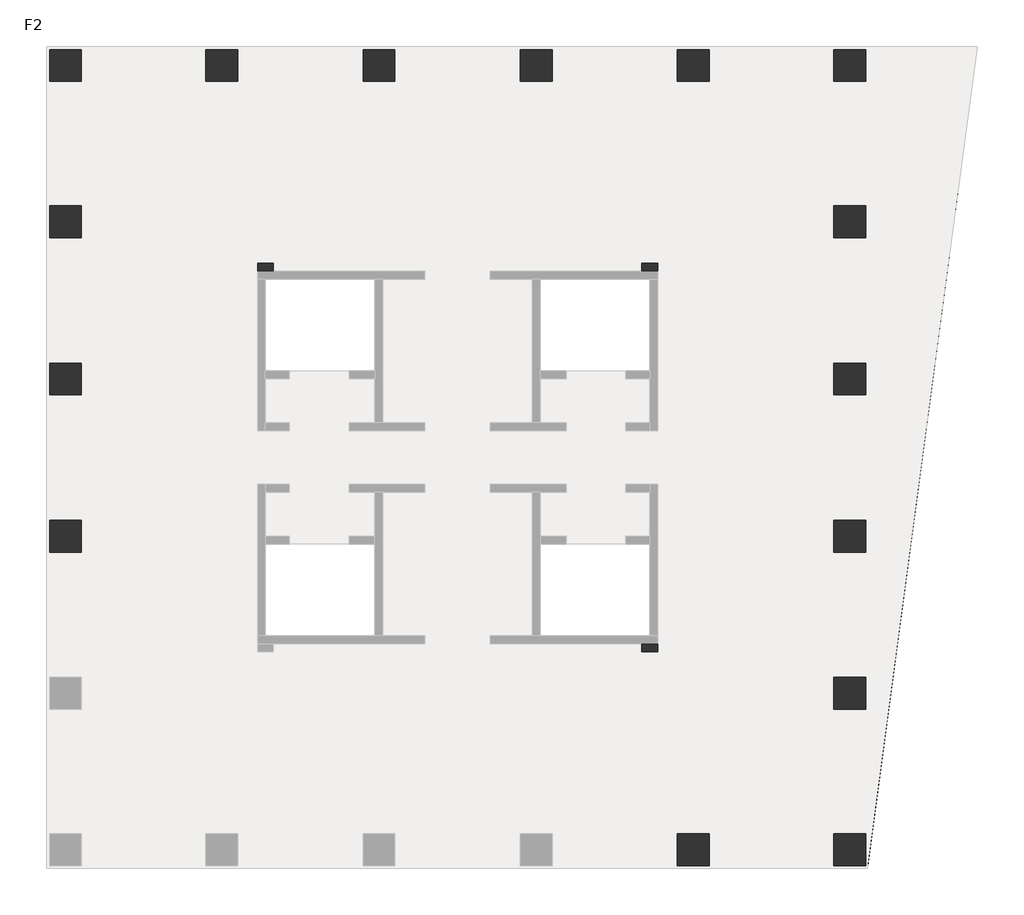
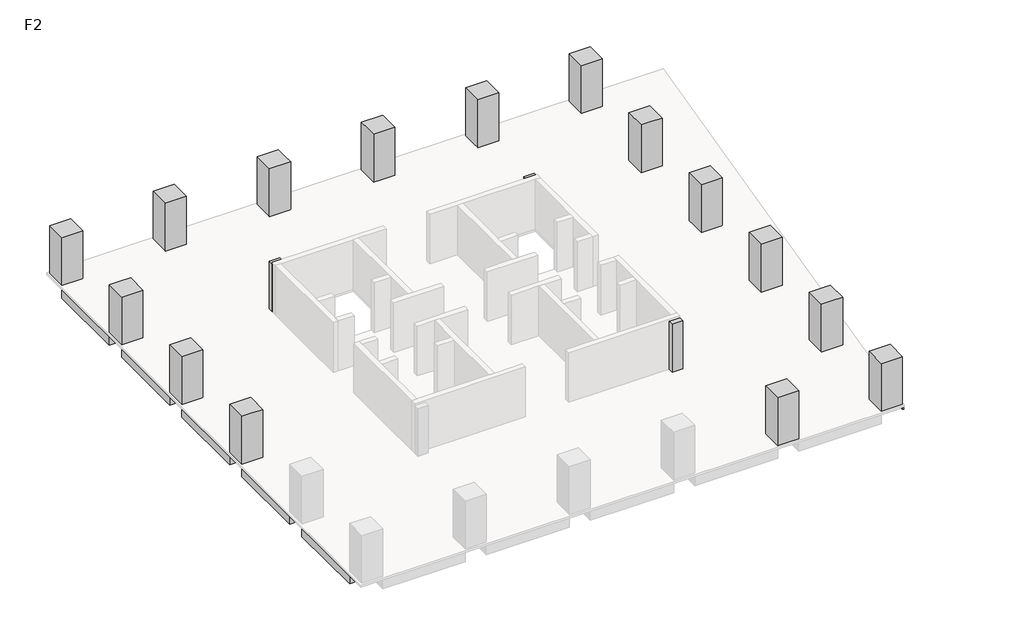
# One storey, part 2 of 2: 21 beams, 18 columns.
"""IFC4 building model written with IfcOpenShell, lengths in millimetres."""

from ifc_helpers import new_model, si_unit, frame, origin, place, context, project, spatial, polyline, outline, extrude, faceted_brep, element, save

model = new_model("IFC4")

# Units and contexts
model_context = context("Model", 3, world=origin())
ifc_project = project(units=[si_unit("LENGTHUNIT", "METRE", prefix="MILLI")], contexts=[model_context])

# Site, building, storey
site = spatial("IfcSite", under=ifc_project)
building = spatial("IfcBuilding", under=site)
storey = spatial("IfcBuildingStorey", under=building, Name="F2", Elevation=8000.0)

# Beams
placement = place(None, origin())
element("IfcBeam", 1, ObjectType="混凝土 - 矩形梁 : KL(5)-800x1000", at=placement, inside=storey, context=model_context, shape_type="SweptSolid", body=[
    extrude(outline(polyline([(25327.3257831, 27051.0498658), (25327.3257831, 26251.0498658), (19077.3257831, 26251.0498658), (19077.3257831, 27051.0498658), (25327.3257831, 27051.0498658)])), frame((0.0, 0.0, 7000.0), z_axis=(0.0, 0.0, 1.0), x_axis=(1.0, 0.0, 0.0)), (0.0, 0.0, 1.0), 840.0),
    extrude(outline(polyline([(-12472.6742169, 26251.0498658), (-12472.6742169, 27051.0498658), (-6222.6742169, 27051.0498658), (-6222.6742169, 26251.0498658), (-12472.6742169, 26251.0498658)])), frame((0.0, 0.0, 7000.0), z_axis=(0.0, 0.0, 1.0), x_axis=(1.0, 0.0, 0.0)), (0.0, 0.0, 1.0), 840.0),
    extrude(outline(polyline([(-4622.6742169, 26251.0498658), (-4622.6742169, 27051.0498658), (1677.3257831, 27051.0498658), (1677.3257831, 26251.0498658), (-4622.6742169, 26251.0498658)])), frame((0.0, 0.0, 7000.0), z_axis=(0.0, 0.0, 1.0), x_axis=(1.0, 0.0, 0.0)), (0.0, 0.0, 1.0), 840.0),
    extrude(outline(polyline([(3277.3257831, 26251.0498658), (3277.3257831, 27051.0498658), (9577.3257831, 27051.0498658), (9577.3257831, 26251.0498658), (3277.3257831, 26251.0498658)])), frame((0.0, 0.0, 7000.0), z_axis=(0.0, 0.0, 1.0), x_axis=(1.0, 0.0, 0.0)), (0.0, 0.0, 1.0), 840.0),
    extrude(outline(polyline([(11177.3257831, 26251.0498658), (11177.3257831, 27051.0498658), (17477.3257831, 27051.0498658), (17477.3257831, 26251.0498658), (11177.3257831, 26251.0498658)])), frame((0.0, 0.0, 7000.0), z_axis=(0.0, 0.0, 1.0), x_axis=(1.0, 0.0, 0.0)), (0.0, 0.0, 1.0), 840.0),
])
element("IfcBeam", 2, ObjectType="混凝土 - 矩形梁 : KL(5)-800x1000", at=placement, inside=storey, context=model_context, shape_type="Brep", body=[
    faceted_brep([(26927.3257831, 26251.0498658, 7000.0), (32422.0087099, 26251.0498658, 7000.0), (32422.0087099, 26251.0498658, 7840.0), (32018.4257091, 26251.0498658, 7840.0), (26927.3257831, 26251.0498658, 7840.0), (32422.0087099, 27051.0498658, 7000.0), (26927.3257831, 27051.0498658, 7000.0), (26927.3257831, 27051.0498658, 7840.0), (32422.0087099, 27051.0498658, 7840.0)], [[[0, 1, 2, 3, 4]], [[5, 1, 0, 6]], [[5, 6, 7, 8]], [[1, 5, 8, 2]], [[6, 0, 4, 7]], [[4, 3, 2, 8, 7]]]),
])
element("IfcBeam", 3, ObjectType="混凝土 - 矩形梁 : KL(5)-800x1000", at=placement, inside=storey, context=model_context, shape_type="Brep", body=[
    faceted_brep([(26127.3257831, -6098.9501342, 7000.0), (26127.3257831, -12348.9501342, 7000.0), (26127.3257831, -12348.9501342, 7840.0), (26127.3257831, -6098.9501342, 7840.0), (26927.3257831, -12348.9501342, 7000.0), (26927.3257831, -6098.9501342, 7000.0), (26927.3257831, -6098.9501342, 7840.0), (26927.3257831, -11700.7859463, 7840.0), (26927.3257831, -12348.9501342, 7840.0)], [[[0, 1, 2, 3]], [[4, 1, 0, 5]], [[4, 5, 6, 7, 8]], [[1, 4, 8, 2]], [[5, 0, 3, 6]], [[3, 2, 8, 7, 6]]]),
    faceted_brep([(26927.3257831, 25451.0498658, 7000.0), (26127.3257831, 25451.0498658, 7000.0), (26127.3257831, 25451.0498658, 7840.0), (26927.3257831, 25451.0498658, 7840.0), (26127.3257831, 19201.0498658, 7000.0), (26927.3257831, 19201.0498658, 7000.0), (26927.3257831, 19201.0498658, 7840.0), (26127.3257831, 19201.0498658, 7840.0)], [[[0, 1, 2, 3]], [[4, 5, 6, 7]], [[1, 4, 7, 2]], [[1, 0, 5, 4]], [[5, 0, 3, 6]], [[3, 2, 7, 6]]]),
    faceted_brep([(26927.3257831, 17601.0498658, 7000.0), (26127.3257831, 17601.0498658, 7000.0), (26127.3257831, 17601.0498658, 7840.0), (26927.3257831, 17601.0498658, 7840.0), (26127.3257831, 11301.0498658, 7000.0), (26927.3257831, 11301.0498658, 7000.0), (26927.3257831, 11301.0498658, 7840.0), (26127.3257831, 11301.0498658, 7840.0)], [[[0, 1, 2, 3]], [[4, 5, 6, 7]], [[1, 4, 7, 2]], [[1, 0, 5, 4]], [[5, 0, 3, 6]], [[3, 2, 7, 6]]]),
    faceted_brep([(26927.3257831, 9701.0498658, 7000.0), (26127.3257831, 9701.0498658, 7000.0), (26127.3257831, 9701.0498658, 7840.0), (26927.3257831, 9701.0498658, 7840.0), (26127.3257831, 3401.0498658, 7000.0), (26927.3257831, 3401.0498658, 7000.0), (26927.3257831, 3401.0498658, 7840.0), (26127.3257831, 3401.0498658, 7840.0)], [[[0, 1, 2, 3]], [[4, 5, 6, 7]], [[1, 4, 7, 2]], [[1, 0, 5, 4]], [[5, 0, 3, 6]], [[3, 2, 7, 6]]]),
    faceted_brep([(26927.3257831, 1801.0498658, 7000.0), (26127.3257831, 1801.0498658, 7000.0), (26127.3257831, 1801.0498658, 7840.0), (26927.3257831, 1801.0498658, 7840.0), (26127.3257831, -4498.9501342, 7000.0), (26927.3257831, -4498.9501342, 7000.0), (26927.3257831, -4498.9501342, 7840.0), (26127.3257831, -4498.9501342, 7840.0)], [[[0, 1, 2, 3]], [[4, 5, 6, 7]], [[1, 4, 7, 2]], [[1, 0, 5, 4]], [[5, 0, 3, 6]], [[3, 2, 7, 6]]]),
])
element("IfcBeam", 4, ObjectType="混凝土 - 矩形梁 : KL(5)-800x1000", at=placement, inside=storey, context=model_context, shape_type="SweptSolid", body=[
    extrude(outline(polyline([(-14072.6742169, 25451.0498658), (-13272.6742169, 25451.0498658), (-13272.6742169, 19201.0498658), (-14072.6742169, 19201.0498658), (-14072.6742169, 25451.0498658)])), frame((0.0, 0.0, 7000.0), z_axis=(0.0, 0.0, 1.0), x_axis=(1.0, 0.0, 0.0)), (0.0, 0.0, 1.0), 840.0),
    extrude(outline(polyline([(-13272.6742169, -12348.9501342), (-14072.6742169, -12348.9501342), (-14072.6742169, -6098.9501342), (-13272.6742169, -6098.9501342), (-13272.6742169, -12348.9501342)])), frame((0.0, 0.0, 7000.0), z_axis=(0.0, 0.0, 1.0), x_axis=(1.0, 0.0, 0.0)), (0.0, 0.0, 1.0), 840.0),
    extrude(outline(polyline([(-14072.6742169, 17601.0498658), (-13272.6742169, 17601.0498658), (-13272.6742169, 11301.0498658), (-14072.6742169, 11301.0498658), (-14072.6742169, 17601.0498658)])), frame((0.0, 0.0, 7000.0), z_axis=(0.0, 0.0, 1.0), x_axis=(1.0, 0.0, 0.0)), (0.0, 0.0, 1.0), 840.0),
    extrude(outline(polyline([(-14072.6742169, 9701.0498658), (-13272.6742169, 9701.0498658), (-13272.6742169, 3401.0498658), (-14072.6742169, 3401.0498658), (-14072.6742169, 9701.0498658)])), frame((0.0, 0.0, 7000.0), z_axis=(0.0, 0.0, 1.0), x_axis=(1.0, 0.0, 0.0)), (0.0, 0.0, 1.0), 840.0),
    extrude(outline(polyline([(-14072.6742169, 1801.0498658), (-13272.6742169, 1801.0498658), (-13272.6742169, -4498.9501342), (-14072.6742169, -4498.9501342), (-14072.6742169, 1801.0498658)])), frame((0.0, 0.0, 7000.0), z_axis=(0.0, 0.0, 1.0), x_axis=(1.0, 0.0, 0.0)), (0.0, 0.0, 1.0), 840.0),
])
element("IfcBeam", 5, ObjectType="混凝土 - 矩形梁 : L1-800x500", at=placement, inside=storey, context=model_context, shape_type="SweptSolid", body=[
    extrude(outline(polyline([(-12472.6742169, 2201.0498658), (-12472.6742169, 3001.0498658), (-3622.6742169, 3001.0498658), (-3622.6742169, 2201.0498658), (-12472.6742169, 2201.0498658)])), frame((0.0, 0.0, 7500.0), z_axis=(0.0, 0.0, 1.0), x_axis=(1.0, 0.0, 0.0)), (0.0, 0.0, 1.0), 340.0),
])
element("IfcBeam", 6, ObjectType="混凝土 - 矩形梁 : L1-800x500", at=placement, inside=storey, context=model_context, shape_type="SweptSolid", body=[
    extrude(outline(polyline([(-12472.6742169, 10101.0498658), (-12472.6742169, 10901.0498658), (-3622.6742169, 10901.0498658), (-3622.6742169, 10101.0498658), (-12472.6742169, 10101.0498658)])), frame((0.0, 0.0, 7500.0), z_axis=(0.0, 0.0, 1.0), x_axis=(1.0, 0.0, 0.0)), (0.0, 0.0, 1.0), 340.0),
])
element("IfcBeam", 7, ObjectType="混凝土 - 矩形梁 : L1-800x500", at=placement, inside=storey, context=model_context, shape_type="Brep", body=[
    faceted_brep([(-12472.6742169, 17789.85471, 7500.0), (-3622.6742169, 15588.3621727, 7500.0), (-3622.6742169, 15588.3621727, 7840.0), (-12472.6742169, 17789.85471, 7840.0), (-3173.6696907, 16301.0498658, 7500.0), (-3622.6742169, 16301.0498658, 7500.0), (-3622.6742169, 15901.0498658, 7500.0), (-12472.6742169, 18614.2350714, 7500.0), (-3746.9473979, 16443.6562607, 7500.0), (-12472.6742169, 18614.2350714, 7840.0), (-3746.9473979, 16443.6562607, 7840.0), (-3173.6696907, 16301.0498658, 7840.0), (-3622.6742169, 16301.0498658, 7840.0)], [[[0, 1, 2, 3]], [[4, 5, 6, 1, 0, 7, 8]], [[4, 8, 7, 9, 10, 11]], [[6, 5, 12, 2, 1]], [[5, 4, 11, 12]], [[7, 0, 3, 9]], [[3, 2, 12, 11, 10, 9]]]),
])
element("IfcBeam", 8, ObjectType="混凝土 - 矩形梁 : L1-800x500", at=placement, inside=storey, context=model_context, shape_type="SweptSolid", body=[
    extrude(outline(polyline([(-3173.6696907, 16301.0498658), (-3746.9473979, 16443.6562607), (-5661.5624638, 25451.0498658), (-4843.6893517, 25451.0498658), (-2898.7618154, 16301.0498658), (-3173.6696907, 16301.0498658)])), frame((0.0, 0.0, 7500.0), z_axis=(0.0, 0.0, 1.0), x_axis=(1.0, 0.0, 0.0)), (0.0, 0.0, 1.0), 340.0),
])
element("IfcBeam", 9, ObjectType="混凝土 - 矩形梁 : L1-800x500", at=placement, inside=storey, context=model_context, shape_type="SweptSolid", body=[
    extrude(outline(polyline([(2077.3257831, 25451.0498658), (2877.3257831, 25451.0498658), (2877.3257831, 15901.0498658), (2077.3257831, 15901.0498658), (2077.3257831, 25451.0498658)])), frame((0.0, 0.0, 7500.0), z_axis=(0.0, 0.0, 1.0), x_axis=(1.0, 0.0, 0.0)), (0.0, 0.0, 1.0), 340.0),
])
element("IfcBeam", 10, ObjectType="混凝土 - 矩形梁 : L1-800x500", at=placement, inside=storey, context=model_context, shape_type="SweptSolid", body=[
    extrude(outline(polyline([(9977.3257831, 25451.0498658), (10777.3257831, 25451.0498658), (10777.3257831, 15901.0498658), (9977.3257831, 15901.0498658), (9977.3257831, 25451.0498658)])), frame((0.0, 0.0, 7500.0), z_axis=(0.0, 0.0, 1.0), x_axis=(1.0, 0.0, 0.0)), (0.0, 0.0, 1.0), 340.0),
])
element("IfcBeam", 11, ObjectType="混凝土 - 矩形梁 : L1-800x500", at=placement, inside=storey, context=model_context, shape_type="Brep", body=[
    faceted_brep([(25327.3257831, -4687.7549784, 7500.0), (16477.3257831, -2486.2624411, 7500.0), (16477.3257831, -2486.2624411, 7840.0), (25327.3257831, -4687.7549784, 7840.0), (16028.3212569, -3198.9501342, 7500.0), (16477.3257831, -3198.9501342, 7500.0), (16477.3257831, -2798.9501342, 7500.0), (25327.3257831, -5512.1353397, 7500.0), (16601.5989641, -3341.556529, 7500.0), (25327.3257831, -5512.1353397, 7840.0), (16601.5989641, -3341.556529, 7840.0), (16028.3212569, -3198.9501342, 7840.0), (16477.3257831, -3198.9501342, 7840.0)], [[[0, 1, 2, 3]], [[4, 5, 6, 1, 0, 7, 8]], [[4, 8, 7, 9, 10, 11]], [[6, 5, 12, 2, 1]], [[5, 4, 11, 12]], [[7, 0, 3, 9]], [[3, 2, 12, 11, 10, 9]]]),
])
element("IfcBeam", 12, ObjectType="混凝土 - 矩形梁 : L1-800x500", at=placement, inside=storey, context=model_context, shape_type="SweptSolid", body=[
    extrude(outline(polyline([(16028.3212569, -3198.9501342), (16601.5989641, -3341.556529), (18516.21403, -12348.9501342), (17698.3409179, -12348.9501342), (15753.4133817, -3198.9501342), (16028.3212569, -3198.9501342)])), frame((0.0, 0.0, 7500.0), z_axis=(0.0, 0.0, 1.0), x_axis=(1.0, 0.0, 0.0)), (0.0, 0.0, 1.0), 340.0),
])
element("IfcBeam", 13, ObjectType="混凝土 - 矩形梁 : L1-800x500", at=placement, inside=storey, context=model_context, shape_type="SweptSolid", body=[
    extrude(outline(polyline([(25327.3257831, 3001.0498658), (25327.3257831, 2201.0498658), (16477.3257831, 2201.0498658), (16477.3257831, 3001.0498658), (25327.3257831, 3001.0498658)])), frame((0.0, 0.0, 7500.0), z_axis=(0.0, 0.0, 1.0), x_axis=(1.0, 0.0, 0.0)), (0.0, 0.0, 1.0), 340.0),
])
element("IfcBeam", 14, ObjectType="混凝土 - 矩形梁 : L1-800x500", at=placement, inside=storey, context=model_context, shape_type="SweptSolid", body=[
    extrude(outline(polyline([(25327.3257831, 10901.0498658), (25327.3257831, 10101.0498658), (16477.3257831, 10101.0498658), (16477.3257831, 10901.0498658), (25327.3257831, 10901.0498658)])), frame((0.0, 0.0, 7500.0), z_axis=(0.0, 0.0, 1.0), x_axis=(1.0, 0.0, 0.0)), (0.0, 0.0, 1.0), 340.0),
])
element("IfcBeam", 15, ObjectType="混凝土 - 矩形梁 : L1-800x500", at=placement, inside=storey, context=model_context, shape_type="Brep", body=[
    faceted_brep([(25327.3257831, 18610.6867312, 7500.0), (16590.8993897, 16393.3196262, 7500.0), (16227.3565337, 16301.0498658, 7500.0), (16227.3565337, 16301.0498658, 7840.0), (16590.8993897, 16393.3196262, 7840.0), (25327.3257831, 18610.6867312, 7840.0), (16477.3257831, 16301.0498658, 7500.0), (25327.3257831, 17785.3216299, 7500.0), (16477.3257831, 15539.1287365, 7500.0), (16477.3257831, 15901.0498658, 7500.0), (25327.3257831, 17785.3216299, 7840.0), (16477.3257831, 15539.1287365, 7840.0), (16477.3257831, 16301.0498658, 7840.0)], [[[0, 1, 2, 3, 4, 5]], [[6, 2, 1, 0, 7, 8, 9]], [[8, 7, 10, 11]], [[9, 8, 11, 12, 6]], [[2, 6, 12, 3]], [[7, 0, 5, 10]], [[5, 4, 3, 12, 11, 10]]]),
])
element("IfcBeam", 16, ObjectType="混凝土 - 矩形梁 : L1-800x500", at=placement, inside=storey, context=model_context, shape_type="SweptSolid", body=[
    extrude(outline(polyline([(16590.8993897, 16393.3196262), (16227.3565337, 16301.0498658), (15753.4133817, 16301.0498658), (17698.3409179, 25451.0498658), (18516.21403, 25451.0498658), (16590.8993897, 16393.3196262)])), frame((0.0, 0.0, 7500.0), z_axis=(0.0, 0.0, 1.0), x_axis=(1.0, 0.0, 0.0)), (0.0, 0.0, 1.0), 340.0),
])
element("IfcBeam", 17, ObjectType="混凝土 - 矩形梁 : L2-400x400", at=placement, inside=storey, context=model_context, shape_type="Brep", body=[
    faceted_brep([(32422.0087099, 26251.0498658, 7600.0), (27029.3257831, -13948.9501342, 7600.0), (26927.3257831, -13935.2672073, 7600.0), (26927.3257831, -11700.7859463, 7600.0), (27759.2793677, -5498.9501342, 7600.0), (27812.9379042, -5098.9501342, 7600.0), (28819.0354652, 2401.0498658, 7600.0), (28872.6940018, 2801.0498658, 7600.0), (29878.7915628, 10301.0498658, 7600.0), (29932.4500994, 10701.0498658, 7600.0), (30938.5476603, 18201.0498658, 7600.0), (30992.2061969, 18601.0498658, 7600.0), (32018.4257091, 26251.0498658, 7600.0), (32422.0087099, 26251.0498658, 7840.0), (27029.3257831, -13948.9501342, 7840.0), (32018.4257091, 26251.0498658, 7840.0), (26927.3257831, -13935.2672073, 7840.0), (26927.3257831, -12348.9501342, 7840.0), (26927.3257831, -11700.7859463, 7840.0), (27759.2793677, -5498.9501342, 7840.0), (27812.9379042, -5098.9501342, 7840.0), (28819.0354652, 2401.0498658, 7840.0), (28872.6940018, 2801.0498658, 7840.0), (29878.7915628, 10301.0498658, 7840.0), (29932.4500994, 10701.0498658, 7840.0), (30938.5476603, 18201.0498658, 7840.0), (30992.2061969, 18601.0498658, 7840.0)], [[[0, 1, 2, 3, 4, 5, 6, 7, 8, 9, 10, 11, 12]], [[1, 0, 13, 14]], [[0, 12, 15, 13]], [[3, 2, 16, 17, 18]], [[12, 11, 10, 9, 8, 7, 6, 5, 4, 3, 18, 19, 20, 21, 22, 23, 24, 25, 26, 15]], [[2, 1, 14, 16]], [[14, 13, 15, 26, 25, 24, 23, 22, 21, 20, 19, 18, 17, 16]]]),
])
element("IfcBeam", 18, ObjectType="混凝土 - 矩形梁 : L2-400x400", at=placement, inside=storey, context=model_context, shape_type="SweptSolid", body=[
    extrude(outline(polyline([(30938.5476603, 18201.0498658), (26927.3257831, 18201.0498658), (26927.3257831, 18601.0498658), (30992.2061969, 18601.0498658), (30938.5476603, 18201.0498658)])), frame((0.0, 0.0, 7600.0), z_axis=(0.0, 0.0, 1.0), x_axis=(1.0, 0.0, 0.0)), (0.0, 0.0, 1.0), 240.0),
])
element("IfcBeam", 19, ObjectType="混凝土 - 矩形梁 : L2-400x400", at=placement, inside=storey, context=model_context, shape_type="SweptSolid", body=[
    extrude(outline(polyline([(29878.7915628, 10301.0498658), (26927.3257831, 10301.0498658), (26927.3257831, 10701.0498658), (29932.4500994, 10701.0498658), (29878.7915628, 10301.0498658)])), frame((0.0, 0.0, 7600.0), z_axis=(0.0, 0.0, 1.0), x_axis=(1.0, 0.0, 0.0)), (0.0, 0.0, 1.0), 240.0),
])
element("IfcBeam", 20, ObjectType="混凝土 - 矩形梁 : L2-400x400", at=placement, inside=storey, context=model_context, shape_type="SweptSolid", body=[
    extrude(outline(polyline([(28819.0354652, 2401.0498658), (26927.3257831, 2401.0498658), (26927.3257831, 2801.0498658), (28872.6940018, 2801.0498658), (28819.0354652, 2401.0498658)])), frame((0.0, 0.0, 7600.0), z_axis=(0.0, 0.0, 1.0), x_axis=(1.0, 0.0, 0.0)), (0.0, 0.0, 1.0), 240.0),
])
element("IfcBeam", 21, ObjectType="混凝土 - 矩形梁 : L2-400x400", at=placement, inside=storey, context=model_context, shape_type="SweptSolid", body=[
    extrude(outline(polyline([(27759.2793677, -5498.9501342), (26927.3257831, -5498.9501342), (26927.3257831, -5098.9501342), (27812.9379042, -5098.9501342), (27759.2793677, -5498.9501342)])), frame((0.0, 0.0, 7600.0), z_axis=(0.0, 0.0, 1.0), x_axis=(1.0, 0.0, 0.0)), (0.0, 0.0, 1.0), 240.0),
])

# Columns
element("IfcColumn", 22, ObjectType="混凝土 - 矩形 - 柱 : Z1-1600x1600", at=placement, inside=storey, context=model_context, shape_type="SweptSolid", body=[
    extrude(outline(polyline([(-12472.6742169, 27051.0498658), (-12472.6742169, 25451.0498658), (-14072.6742169, 25451.0498658), (-14072.6742169, 27051.0498658), (-12472.6742169, 27051.0498658)])), frame((0.0, 0.0, 8000.0), z_axis=(0.0, 0.0, 1.0), x_axis=(1.0, 0.0, 0.0)), (0.0, 0.0, 1.0), 3840.0),
])
element("IfcColumn", 23, ObjectType="混凝土 - 矩形 - 柱 : Z1-1600x1600", at=placement, inside=storey, context=model_context, shape_type="Brep", body=[
    faceted_brep([(-4622.6742169, 27051.0498658, 8000.0), (-4622.6742169, 25451.0498658, 8000.0), (-6222.6742169, 25451.0498658, 8000.0), (-6222.6742169, 27051.0498658, 8000.0), (-4622.6742169, 27051.0498658, 11000.0), (-4622.6742169, 27051.0498658, 11840.0), (-4622.6742169, 26251.0498658, 11840.0), (-4622.6742169, 25451.0498658, 11840.0), (-6222.6742169, 25451.0498658, 11840.0), (-6222.6742169, 26251.0498658, 11840.0), (-6222.6742169, 27051.0498658, 11840.0), (-6222.6742169, 27051.0498658, 11000.0)], [[[0, 1, 2, 3]], [[1, 0, 4, 5, 6, 7]], [[2, 1, 7, 8]], [[3, 2, 8, 9, 10, 11]], [[0, 3, 11, 10, 5, 4]], [[7, 6, 5, 10, 9, 8]]]),
])
element("IfcColumn", 24, ObjectType="混凝土 - 矩形 - 柱 : Z1-1600x1600", at=placement, inside=storey, context=model_context, shape_type="Brep", body=[
    faceted_brep([(-12472.6742169, 19201.0498658, 8000.0), (-12472.6742169, 17601.0498658, 8000.0), (-14072.6742169, 17601.0498658, 8000.0), (-14072.6742169, 19201.0498658, 8000.0), (-12472.6742169, 19201.0498658, 11840.0), (-12472.6742169, 17601.0498658, 11840.0), (-13272.6742169, 17601.0498658, 11840.0), (-14072.6742169, 17601.0498658, 11840.0), (-14072.6742169, 17601.0498658, 11000.0), (-14072.6742169, 19201.0498658, 11840.0), (-14072.6742169, 19201.0498658, 11000.0), (-13272.6742169, 19201.0498658, 11840.0)], [[[0, 1, 2, 3]], [[1, 0, 4, 5]], [[2, 1, 5, 6, 7, 8]], [[3, 2, 8, 7, 9, 10]], [[0, 3, 10, 9, 11, 4]], [[5, 4, 11, 9, 7, 6]]]),
])
element("IfcColumn", 25, ObjectType="混凝土 - 矩形 - 柱 : Z1-1600x1600", at=placement, inside=storey, context=model_context, shape_type="Brep", body=[
    faceted_brep([(-12472.6742169, 11301.0498658, 8000.0), (-12472.6742169, 9701.0498658, 8000.0), (-14072.6742169, 9701.0498658, 8000.0), (-14072.6742169, 11301.0498658, 8000.0), (-12472.6742169, 11301.0498658, 11840.0), (-12472.6742169, 9701.0498658, 11840.0), (-13272.6742169, 9701.0498658, 11840.0), (-14072.6742169, 9701.0498658, 11840.0), (-14072.6742169, 9701.0498658, 11000.0), (-14072.6742169, 11301.0498658, 11840.0), (-14072.6742169, 11301.0498658, 11000.0), (-13272.6742169, 11301.0498658, 11840.0)], [[[0, 1, 2, 3]], [[1, 0, 4, 5]], [[2, 1, 5, 6, 7, 8]], [[3, 2, 8, 7, 9, 10]], [[0, 3, 10, 9, 11, 4]], [[5, 4, 11, 9, 7, 6]]]),
])
element("IfcColumn", 26, ObjectType="混凝土 - 矩形 - 柱 : Z1-1600x1600", at=placement, inside=storey, context=model_context, shape_type="Brep", body=[
    faceted_brep([(-12472.6742169, 3401.0498658, 8000.0), (-12472.6742169, 1801.0498658, 8000.0), (-14072.6742169, 1801.0498658, 8000.0), (-14072.6742169, 3401.0498658, 8000.0), (-12472.6742169, 3401.0498658, 11840.0), (-12472.6742169, 1801.0498658, 11840.0), (-13272.6742169, 1801.0498658, 11840.0), (-14072.6742169, 1801.0498658, 11840.0), (-14072.6742169, 1801.0498658, 11000.0), (-14072.6742169, 3401.0498658, 11840.0), (-14072.6742169, 3401.0498658, 11000.0), (-13272.6742169, 3401.0498658, 11840.0)], [[[0, 1, 2, 3]], [[1, 0, 4, 5]], [[2, 1, 5, 6, 7, 8]], [[3, 2, 8, 7, 9, 10]], [[0, 3, 10, 9, 11, 4]], [[5, 4, 11, 9, 7, 6]]]),
])
element("IfcColumn", 27, ObjectType="混凝土 - 矩形 - 柱 : Z1-1600x1600", at=placement, inside=storey, context=model_context, shape_type="SweptSolid", body=[
    extrude(outline(polyline([(25327.3257831, 27051.0498658), (26927.3257831, 27051.0498658), (26927.3257831, 25451.0498658), (25327.3257831, 25451.0498658), (25327.3257831, 27051.0498658)])), frame((0.0, 0.0, 8000.0), z_axis=(0.0, 0.0, 1.0), x_axis=(1.0, 0.0, 0.0)), (0.0, 0.0, 1.0), 3840.0),
])
element("IfcColumn", 28, ObjectType="混凝土 - 矩形 - 柱 : Z1-1600x1600", at=placement, inside=storey, context=model_context, shape_type="Brep", body=[
    faceted_brep([(25327.3257831, 19201.0498658, 8000.0), (26927.3257831, 19201.0498658, 8000.0), (26927.3257831, 17601.0498658, 8000.0), (25327.3257831, 17601.0498658, 8000.0), (25327.3257831, 17601.0498658, 11840.0), (25327.3257831, 19201.0498658, 11840.0), (26927.3257831, 17601.0498658, 11000.0), (26927.3257831, 17601.0498658, 11840.0), (26127.3257831, 17601.0498658, 11840.0), (26927.3257831, 19201.0498658, 11000.0), (26927.3257831, 19201.0498658, 11840.0), (26127.3257831, 19201.0498658, 11840.0)], [[[0, 1, 2, 3]], [[0, 3, 4, 5]], [[3, 2, 6, 7, 8, 4]], [[2, 1, 9, 10, 7, 6]], [[1, 0, 5, 11, 10, 9]], [[5, 4, 8, 7, 10, 11]]]),
])
element("IfcColumn", 29, ObjectType="混凝土 - 矩形 - 柱 : Z1-1600x1600", at=placement, inside=storey, context=model_context, shape_type="Brep", body=[
    faceted_brep([(25327.3257831, 11301.0498658, 8000.0), (26927.3257831, 11301.0498658, 8000.0), (26927.3257831, 9701.0498658, 8000.0), (25327.3257831, 9701.0498658, 8000.0), (25327.3257831, 9701.0498658, 11840.0), (25327.3257831, 11301.0498658, 11840.0), (26927.3257831, 9701.0498658, 11000.0), (26927.3257831, 9701.0498658, 11840.0), (26127.3257831, 9701.0498658, 11840.0), (26927.3257831, 11301.0498658, 11000.0), (26927.3257831, 11301.0498658, 11840.0), (26127.3257831, 11301.0498658, 11840.0)], [[[0, 1, 2, 3]], [[0, 3, 4, 5]], [[3, 2, 6, 7, 8, 4]], [[2, 1, 9, 10, 7, 6]], [[1, 0, 5, 11, 10, 9]], [[5, 4, 8, 7, 10, 11]]]),
])
element("IfcColumn", 30, ObjectType="混凝土 - 矩形 - 柱 : Z1-1600x1600", at=placement, inside=storey, context=model_context, shape_type="Brep", body=[
    faceted_brep([(25327.3257831, 3401.0498658, 8000.0), (26927.3257831, 3401.0498658, 8000.0), (26927.3257831, 1801.0498658, 8000.0), (25327.3257831, 1801.0498658, 8000.0), (25327.3257831, 1801.0498658, 11840.0), (25327.3257831, 3401.0498658, 11840.0), (26927.3257831, 1801.0498658, 11000.0), (26927.3257831, 1801.0498658, 11840.0), (26127.3257831, 1801.0498658, 11840.0), (26927.3257831, 3401.0498658, 11000.0), (26927.3257831, 3401.0498658, 11840.0), (26127.3257831, 3401.0498658, 11840.0)], [[[0, 1, 2, 3]], [[0, 3, 4, 5]], [[3, 2, 6, 7, 8, 4]], [[2, 1, 9, 10, 7, 6]], [[1, 0, 5, 11, 10, 9]], [[5, 4, 8, 7, 10, 11]]]),
])
element("IfcColumn", 31, ObjectType="混凝土 - 矩形 - 柱 : Z1-1600x1600", at=placement, inside=storey, context=model_context, shape_type="Brep", body=[
    faceted_brep([(25327.3257831, -4498.9501342, 8000.0), (26927.3257831, -4498.9501342, 8000.0), (26927.3257831, -6098.9501342, 8000.0), (25327.3257831, -6098.9501342, 8000.0), (25327.3257831, -6098.9501342, 11840.0), (25327.3257831, -4498.9501342, 11840.0), (26927.3257831, -6098.9501342, 11000.0), (26927.3257831, -6098.9501342, 11840.0), (26127.3257831, -6098.9501342, 11840.0), (26927.3257831, -4498.9501342, 11000.0), (26927.3257831, -4498.9501342, 11840.0), (26127.3257831, -4498.9501342, 11840.0)], [[[0, 1, 2, 3]], [[0, 3, 4, 5]], [[3, 2, 6, 7, 8, 4]], [[2, 1, 9, 10, 7, 6]], [[1, 0, 5, 11, 10, 9]], [[5, 4, 8, 7, 10, 11]]]),
])
element("IfcColumn", 32, ObjectType="混凝土 - 矩形 - 柱 : Z1-1600x1600", at=placement, inside=storey, context=model_context, shape_type="SweptSolid", body=[
    extrude(outline(polyline([(25327.3257831, -12348.9501342), (26927.3257831, -12348.9501342), (26927.3257831, -13948.9501342), (25327.3257831, -13948.9501342), (25327.3257831, -12348.9501342)])), frame((0.0, 0.0, 8000.0), z_axis=(0.0, 0.0, 1.0), x_axis=(1.0, 0.0, 0.0)), (0.0, 0.0, 1.0), 3840.0),
])
element("IfcColumn", 33, ObjectType="混凝土 - 矩形 - 柱 : Z1-1600x1600", at=placement, inside=storey, context=model_context, shape_type="Brep", body=[
    faceted_brep([(3277.3257831, 27051.0498658, 8000.0), (3277.3257831, 25451.0498658, 8000.0), (1677.3257831, 25451.0498658, 8000.0), (1677.3257831, 27051.0498658, 8000.0), (3277.3257831, 27051.0498658, 11000.0), (3277.3257831, 27051.0498658, 11840.0), (3277.3257831, 26251.0498658, 11840.0), (3277.3257831, 25451.0498658, 11840.0), (1677.3257831, 25451.0498658, 11840.0), (1677.3257831, 26251.0498658, 11840.0), (1677.3257831, 27051.0498658, 11840.0), (1677.3257831, 27051.0498658, 11000.0)], [[[0, 1, 2, 3]], [[1, 0, 4, 5, 6, 7]], [[2, 1, 7, 8]], [[3, 2, 8, 9, 10, 11]], [[0, 3, 11, 10, 5, 4]], [[7, 6, 5, 10, 9, 8]]]),
])
element("IfcColumn", 34, ObjectType="混凝土 - 矩形 - 柱 : Z1-1600x1600", at=placement, inside=storey, context=model_context, shape_type="Brep", body=[
    faceted_brep([(11177.3257831, 27051.0498658, 8000.0), (11177.3257831, 25451.0498658, 8000.0), (9577.3257831, 25451.0498658, 8000.0), (9577.3257831, 27051.0498658, 8000.0), (11177.3257831, 27051.0498658, 11000.0), (11177.3257831, 27051.0498658, 11840.0), (11177.3257831, 26251.0498658, 11840.0), (11177.3257831, 25451.0498658, 11840.0), (9577.3257831, 25451.0498658, 11840.0), (9577.3257831, 26251.0498658, 11840.0), (9577.3257831, 27051.0498658, 11840.0), (9577.3257831, 27051.0498658, 11000.0)], [[[0, 1, 2, 3]], [[1, 0, 4, 5, 6, 7]], [[2, 1, 7, 8]], [[3, 2, 8, 9, 10, 11]], [[0, 3, 11, 10, 5, 4]], [[7, 6, 5, 10, 9, 8]]]),
])
element("IfcColumn", 35, ObjectType="混凝土 - 矩形 - 柱 : Z1-1600x1600", at=placement, inside=storey, context=model_context, shape_type="Brep", body=[
    faceted_brep([(19077.3257831, 27051.0498658, 8000.0), (19077.3257831, 25451.0498658, 8000.0), (17477.3257831, 25451.0498658, 8000.0), (17477.3257831, 27051.0498658, 8000.0), (19077.3257831, 27051.0498658, 11000.0), (19077.3257831, 27051.0498658, 11840.0), (19077.3257831, 26251.0498658, 11840.0), (19077.3257831, 25451.0498658, 11840.0), (17477.3257831, 25451.0498658, 11840.0), (17477.3257831, 26251.0498658, 11840.0), (17477.3257831, 27051.0498658, 11840.0), (17477.3257831, 27051.0498658, 11000.0)], [[[0, 1, 2, 3]], [[1, 0, 4, 5, 6, 7]], [[2, 1, 7, 8]], [[3, 2, 8, 9, 10, 11]], [[0, 3, 11, 10, 5, 4]], [[7, 6, 5, 10, 9, 8]]]),
])
element("IfcColumn", 36, ObjectType="混凝土 - 矩形 - 柱 : Z1-1600x1600", at=placement, inside=storey, context=model_context, shape_type="Brep", body=[
    faceted_brep([(19077.3257831, -12348.9501342, 8000.0), (19077.3257831, -13948.9501342, 8000.0), (17477.3257831, -13948.9501342, 8000.0), (17477.3257831, -12348.9501342, 8000.0), (19077.3257831, -12348.9501342, 11840.0), (19077.3257831, -13148.9501342, 11840.0), (19077.3257831, -13948.9501342, 11840.0), (19077.3257831, -13948.9501342, 11000.0), (17477.3257831, -13948.9501342, 11840.0), (17477.3257831, -13948.9501342, 11000.0), (17477.3257831, -13148.9501342, 11840.0), (17477.3257831, -12348.9501342, 11840.0)], [[[0, 1, 2, 3]], [[1, 0, 4, 5, 6, 7]], [[2, 1, 7, 6, 8, 9]], [[3, 2, 9, 8, 10, 11]], [[0, 3, 11, 4]], [[6, 5, 4, 11, 10, 8]]]),
])
element("IfcColumn", 37, ObjectType="混凝土 - 矩形 - 柱 : Z2-800x800", at=placement, inside=storey, context=model_context, shape_type="SweptSolid", body=[
    extrude(outline(polyline([(-3622.6742169, 16301.0498658), (-2822.6742169, 16301.0498658), (-2822.6742169, 15901.0498658), (-3622.6742169, 15901.0498658), (-3622.6742169, 16301.0498658)])), frame((0.0, 0.0, 8000.0), z_axis=(0.0, 0.0, 1.0), x_axis=(1.0, 0.0, 0.0)), (0.0, 0.0, 1.0), 3840.0),
])
element("IfcColumn", 38, ObjectType="混凝土 - 矩形 - 柱 : Z2-800x800", at=placement, inside=storey, context=model_context, shape_type="SweptSolid", body=[
    extrude(outline(polyline([(16477.3257831, -3198.9501342), (15677.3257831, -3198.9501342), (15677.3257831, -2798.9501342), (16477.3257831, -2798.9501342), (16477.3257831, -3198.9501342)])), frame((0.0, 0.0, 8000.0), z_axis=(0.0, 0.0, 1.0), x_axis=(1.0, 0.0, 0.0)), (0.0, 0.0, 1.0), 3840.0),
])
element("IfcColumn", 39, ObjectType="混凝土 - 矩形 - 柱 : Z2-800x800", at=placement, inside=storey, context=model_context, shape_type="SweptSolid", body=[
    extrude(outline(polyline([(15677.3257831, 16301.0498658), (16477.3257831, 16301.0498658), (16477.3257831, 15901.0498658), (15677.3257831, 15901.0498658), (15677.3257831, 16301.0498658)])), frame((0.0, 0.0, 8000.0), z_axis=(0.0, 0.0, 1.0), x_axis=(1.0, 0.0, 0.0)), (0.0, 0.0, 1.0), 3840.0),
])

save(model, "model.ifc")
